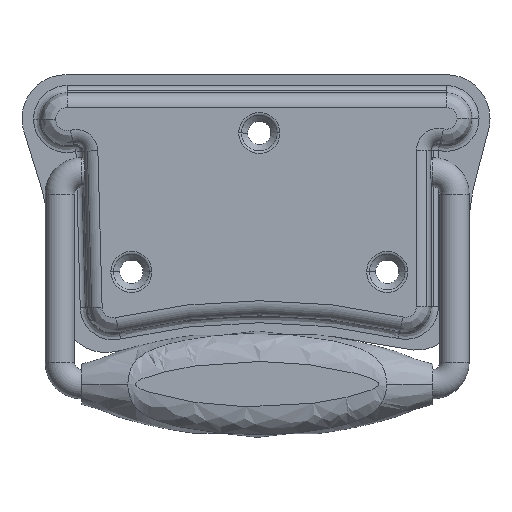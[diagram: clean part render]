
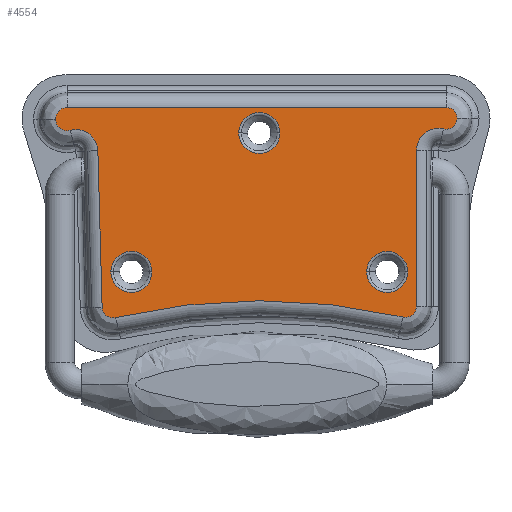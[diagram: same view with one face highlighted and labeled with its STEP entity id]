
A CAD part, top view. The second image highlights one B-rep face of the part: STEP entity #4554.
In plain terms, the highlighted planar face has unit normal (0, 0, 1).
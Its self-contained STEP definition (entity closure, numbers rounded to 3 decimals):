
#559=CARTESIAN_POINT('',(6.518,22.028,7.0));
#560=VERTEX_POINT('',#559);
#568=CARTESIAN_POINT('',(-4.71,22.028,7.0));
#569=VERTEX_POINT('',#568);
#570=CARTESIAN_POINT('',(0.904,22.028,7.0));
#571=DIRECTION('',(0.0,0.0,1.0));
#572=DIRECTION('',(-1.0,0.0,0.0));
#573=AXIS2_PLACEMENT_3D('',#570,#571,#572);
#574=CIRCLE('',#573,5.614);
#575=EDGE_CURVE('',#560,#569,#574,.T.);
#631=CARTESIAN_POINT('',(-28.482,-15.972,7.0));
#632=VERTEX_POINT('',#631);
#640=CARTESIAN_POINT('',(-39.71,-15.972,7.0));
#641=VERTEX_POINT('',#640);
#642=CARTESIAN_POINT('',(-34.096,-15.972,7.0));
#643=DIRECTION('',(0.0,0.0,1.0));
#644=DIRECTION('',(-1.0,0.0,0.0));
#645=AXIS2_PLACEMENT_3D('',#642,#643,#644);
#646=CIRCLE('',#645,5.614);
#647=EDGE_CURVE('',#632,#641,#646,.T.);
#703=CARTESIAN_POINT('',(41.518,-15.972,7.0));
#704=VERTEX_POINT('',#703);
#712=CARTESIAN_POINT('',(30.29,-15.972,7.0));
#713=VERTEX_POINT('',#712);
#714=CARTESIAN_POINT('',(35.904,-15.972,7.0));
#715=DIRECTION('',(0.0,0.0,1.0));
#716=DIRECTION('',(-1.0,0.0,0.0));
#717=AXIS2_PLACEMENT_3D('',#714,#715,#716);
#718=CIRCLE('',#717,5.614);
#719=EDGE_CURVE('',#704,#713,#718,.T.);
#959=CARTESIAN_POINT('',(43.904,17.295,7.0));
#960=VERTEX_POINT('',#959);
#968=CARTESIAN_POINT('',(43.904,-25.396,7.0));
#969=VERTEX_POINT('',#968);
#970=CARTESIAN_POINT('',(43.904,17.295,7.0));
#971=DIRECTION('',(0.0,-1.0,0.0));
#972=VECTOR('',#971,42.692);
#973=LINE('',#970,#972);
#974=EDGE_CURVE('',#960,#969,#973,.T.);
#1001=CARTESIAN_POINT('',(-42.098,-25.631,7.0));
#1002=VERTEX_POINT('',#1001);
#1010=CARTESIAN_POINT('',(-43.267,17.156,7.0));
#1011=VERTEX_POINT('',#1010);
#1012=CARTESIAN_POINT('',(-42.098,-25.631,7.0));
#1013=DIRECTION('',(-0.027,1.,0.0));
#1014=VECTOR('',#1013,42.803);
#1015=LINE('',#1012,#1014);
#1016=EDGE_CURVE('',#1002,#1011,#1015,.T.);
#1081=CARTESIAN_POINT('',(55.022,26.034,7.0));
#1082=VERTEX_POINT('',#1081);
#1100=CARTESIAN_POINT('',(52.028,29.028,7.0));
#1101=VERTEX_POINT('',#1100);
#1109=CARTESIAN_POINT('',(52.028,26.034,7.0));
#1110=DIRECTION('',(0.0,0.0,-1.));
#1111=DIRECTION('',(0.993,-0.119,0.0));
#1112=AXIS2_PLACEMENT_3D('',#1109,#1110,#1111);
#1113=CIRCLE('',#1112,2.994);
#1114=EDGE_CURVE('',#1101,#1082,#1113,.T.);
#1172=CARTESIAN_POINT('',(-54.858,25.849,7.0));
#1173=VERTEX_POINT('',#1172);
#1181=CARTESIAN_POINT('',(-51.678,29.028,7.0));
#1182=VERTEX_POINT('',#1181);
#1183=CARTESIAN_POINT('',(-51.678,25.849,7.0));
#1184=DIRECTION('',(0.0,0.0,-1.0));
#1185=DIRECTION('',(-0.991,-0.133,0.0));
#1186=AXIS2_PLACEMENT_3D('',#1183,#1184,#1185);
#1187=CIRCLE('',#1186,3.18);
#1188=EDGE_CURVE('',#1173,#1182,#1187,.T.);
#1222=CARTESIAN_POINT('',(-51.678,29.028,7.0));
#1223=DIRECTION('',(1.0,0.0,0.0));
#1224=VECTOR('',#1223,103.706);
#1225=LINE('',#1222,#1224);
#1226=EDGE_CURVE('',#1182,#1101,#1225,.T.);
#4027=CARTESIAN_POINT('',(-50.842,22.781,7.0));
#4028=VERTEX_POINT('',#4027);
#4036=CARTESIAN_POINT('',(-51.678,25.849,7.0));
#4037=DIRECTION('',(0.0,0.0,-1.0));
#4038=DIRECTION('',(-0.991,-0.133,0.0));
#4039=AXIS2_PLACEMENT_3D('',#4036,#4037,#4038);
#4040=CIRCLE('',#4039,3.18);
#4041=EDGE_CURVE('',#4028,#1173,#4040,.T.);
#4100=CARTESIAN_POINT('',(51.321,23.126,7.0));
#4101=VERTEX_POINT('',#4100);
#4102=CARTESIAN_POINT('',(52.028,26.034,7.0));
#4103=DIRECTION('',(0.0,0.0,-1.));
#4104=DIRECTION('',(0.993,-0.119,0.0));
#4105=AXIS2_PLACEMENT_3D('',#4102,#4103,#4104);
#4106=CIRCLE('',#4105,2.994);
#4107=EDGE_CURVE('',#1082,#4101,#4106,.T.);
#4139=CARTESIAN_POINT('',(-49.265,16.992,7.0));
#4140=DIRECTION('',(0.0,0.0,1.));
#4141=DIRECTION('',(0.596,0.803,0.0));
#4142=AXIS2_PLACEMENT_3D('',#4139,#4140,#4141);
#4143=CIRCLE('',#4142,6.);
#4144=EDGE_CURVE('',#1011,#4028,#4143,.T.);
#4182=CARTESIAN_POINT('',(49.904,17.295,7.0));
#4183=DIRECTION('',(0.0,0.0,1.));
#4184=DIRECTION('',(-0.618,0.786,0.0));
#4185=AXIS2_PLACEMENT_3D('',#4182,#4183,#4184);
#4186=CIRCLE('',#4185,6.0);
#4187=EDGE_CURVE('',#4101,#960,#4186,.T.);
#4281=CARTESIAN_POINT('',(-38.411,-28.469,7.0));
#4282=VERTEX_POINT('',#4281);
#4290=CARTESIAN_POINT('',(-39.099,-25.549,7.0));
#4291=DIRECTION('',(0.0,0.0,-1.));
#4292=DIRECTION('',(-0.61,-0.792,0.0));
#4293=AXIS2_PLACEMENT_3D('',#4290,#4291,#4292);
#4294=CIRCLE('',#4293,3.);
#4295=EDGE_CURVE('',#4282,#1002,#4294,.T.);
#4362=CARTESIAN_POINT('',(40.227,-28.319,7.0));
#4363=VERTEX_POINT('',#4362);
#4382=CARTESIAN_POINT('',(40.904,-25.396,7.0));
#4383=DIRECTION('',(0.0,0.0,-1.0));
#4384=DIRECTION('',(0.622,-0.783,0.0));
#4385=AXIS2_PLACEMENT_3D('',#4382,#4383,#4384);
#4386=CIRCLE('',#4385,3.);
#4387=EDGE_CURVE('',#969,#4363,#4386,.T.);
#4406=CARTESIAN_POINT('',(1.23,-196.81,7.0));
#4407=DIRECTION('',(0.0,0.0,1.));
#4408=DIRECTION('',(-0.002,1.,0.0));
#4409=AXIS2_PLACEMENT_3D('',#4406,#4407,#4408);
#4410=CIRCLE('',#4409,172.945);
#4411=EDGE_CURVE('',#4363,#4282,#4410,.T.);
#4505=CARTESIAN_POINT('',(0.714,3.129,7.0));
#4506=DIRECTION('',(0.0,0.0,1.0));
#4507=DIRECTION('',(1.0,0.0,0.0));
#4508=AXIS2_PLACEMENT_3D('',#4505,#4506,#4507);
#4509=PLANE('',#4508);
#4510=ORIENTED_EDGE('',*,*,#1226,.F.);
#4511=ORIENTED_EDGE('',*,*,#1188,.F.);
#4512=ORIENTED_EDGE('',*,*,#4041,.F.);
#4513=ORIENTED_EDGE('',*,*,#4144,.F.);
#4514=ORIENTED_EDGE('',*,*,#1016,.F.);
#4515=ORIENTED_EDGE('',*,*,#4295,.F.);
#4516=ORIENTED_EDGE('',*,*,#4411,.F.);
#4517=ORIENTED_EDGE('',*,*,#4387,.F.);
#4518=ORIENTED_EDGE('',*,*,#974,.F.);
#4519=ORIENTED_EDGE('',*,*,#4187,.F.);
#4520=ORIENTED_EDGE('',*,*,#4107,.F.);
#4521=ORIENTED_EDGE('',*,*,#1114,.F.);
#4522=EDGE_LOOP('',(#4510,#4511,#4512,#4513,#4514,#4515,#4516,#4517,#4518,#4519,#4520,#4521));
#4523=FACE_OUTER_BOUND('',#4522,.T.);
#4524=ORIENTED_EDGE('',*,*,#719,.F.);
#4525=CARTESIAN_POINT('',(35.904,-15.972,7.0));
#4526=DIRECTION('',(0.0,0.0,1.0));
#4527=DIRECTION('',(-1.0,0.0,0.0));
#4528=AXIS2_PLACEMENT_3D('',#4525,#4526,#4527);
#4529=CIRCLE('',#4528,5.614);
#4530=EDGE_CURVE('',#713,#704,#4529,.T.);
#4531=ORIENTED_EDGE('',*,*,#4530,.F.);
#4532=EDGE_LOOP('',(#4524,#4531));
#4533=FACE_BOUND('',#4532,.T.);
#4534=ORIENTED_EDGE('',*,*,#575,.F.);
#4535=CARTESIAN_POINT('',(0.904,22.028,7.0));
#4536=DIRECTION('',(0.0,0.0,1.0));
#4537=DIRECTION('',(-1.0,0.0,0.0));
#4538=AXIS2_PLACEMENT_3D('',#4535,#4536,#4537);
#4539=CIRCLE('',#4538,5.614);
#4540=EDGE_CURVE('',#569,#560,#4539,.T.);
#4541=ORIENTED_EDGE('',*,*,#4540,.F.);
#4542=EDGE_LOOP('',(#4534,#4541));
#4543=FACE_BOUND('',#4542,.T.);
#4544=ORIENTED_EDGE('',*,*,#647,.F.);
#4545=CARTESIAN_POINT('',(-34.096,-15.972,7.0));
#4546=DIRECTION('',(0.0,0.0,1.0));
#4547=DIRECTION('',(-1.0,0.0,0.0));
#4548=AXIS2_PLACEMENT_3D('',#4545,#4546,#4547);
#4549=CIRCLE('',#4548,5.614);
#4550=EDGE_CURVE('',#641,#632,#4549,.T.);
#4551=ORIENTED_EDGE('',*,*,#4550,.F.);
#4552=EDGE_LOOP('',(#4544,#4551));
#4553=FACE_BOUND('',#4552,.T.);
#4554=ADVANCED_FACE('',(#4523,#4533,#4543,#4553),#4509,.T.);
